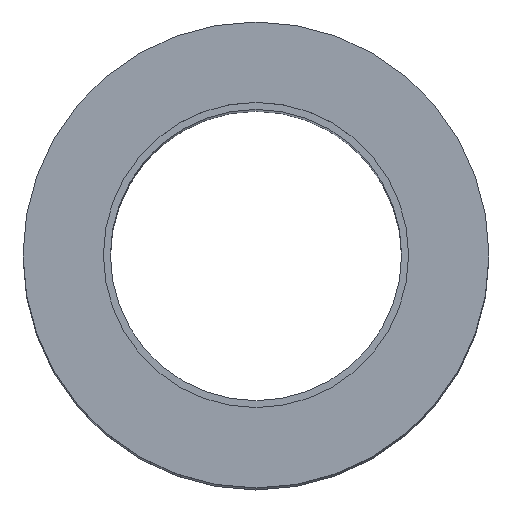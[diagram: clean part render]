
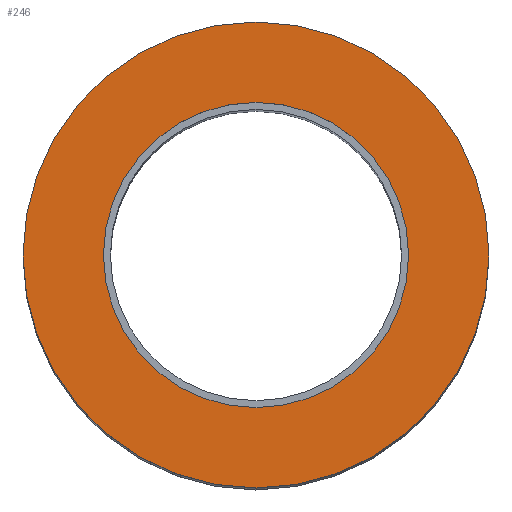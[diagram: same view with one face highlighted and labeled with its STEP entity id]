
A CAD part, top view. The second image highlights one B-rep face of the part: STEP entity #246.
In plain terms, the highlighted planar face has unit normal (0, 0, 1).
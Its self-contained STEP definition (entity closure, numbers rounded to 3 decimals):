
#3 = EDGE_CURVE ( 'NONE', #520, #337, #292, .T. ) ;
#23 = AXIS2_PLACEMENT_3D ( 'NONE', #208, #526, #306 ) ;
#25 = CARTESIAN_POINT ( 'NONE',  ( 0., 0., 0. ) ) ;
#27 = DIRECTION ( 'NONE',  ( 0., 0., 1. ) ) ;
#29 = AXIS2_PLACEMENT_3D ( 'NONE', #25, #493, #184 ) ;
#65 = PLANE ( 'NONE',  #23 ) ;
#79 = CARTESIAN_POINT ( 'NONE',  ( 20., 0., 0. ) ) ;
#82 = DIRECTION ( 'NONE',  ( 1., 0., 0. ) ) ;
#102 = AXIS2_PLACEMENT_3D ( 'NONE', #243, #558, #134 ) ;
#134 = DIRECTION ( 'NONE',  ( 1., 0., 0. ) ) ;
#163 = AXIS2_PLACEMENT_3D ( 'NONE', #336, #27, #82 ) ;
#174 = DIRECTION ( 'NONE',  ( 0., 0., 1. ) ) ;
#184 = DIRECTION ( 'NONE',  ( 1., 0., 0. ) ) ;
#208 = CARTESIAN_POINT ( 'NONE',  ( 0., 20., 0. ) ) ;
#229 = FACE_BOUND ( 'NONE', #407, .T. ) ;
#232 = CARTESIAN_POINT ( 'NONE',  ( -20., 0., 0. ) ) ;
#243 = CARTESIAN_POINT ( 'NONE',  ( 0., 0., 0. ) ) ;
#244 = CARTESIAN_POINT ( 'NONE',  ( 13.1, 0., 0. ) ) ;
#246 = ADVANCED_FACE ( 'NONE', ( #508, #229 ), #65, .T. ) ;
#250 = CIRCLE ( 'NONE', #609, 20. ) ;
#292 = CIRCLE ( 'NONE', #102, 13.1 ) ;
#306 = DIRECTION ( 'NONE',  ( 1., 0., 0. ) ) ;
#336 = CARTESIAN_POINT ( 'NONE',  ( 0., 0., 0. ) ) ;
#337 = VERTEX_POINT ( 'NONE', #486 ) ;
#387 = ORIENTED_EDGE ( 'NONE', *, *, #392, .T. ) ;
#392 = EDGE_CURVE ( 'NONE', #449, #426, #547, .T. ) ;
#398 = CIRCLE ( 'NONE', #29, 13.1 ) ;
#407 = EDGE_LOOP ( 'NONE', ( #504, #579 ) ) ;
#408 = EDGE_CURVE ( 'NONE', #337, #520, #398, .T. ) ;
#426 = VERTEX_POINT ( 'NONE', #232 ) ;
#428 = EDGE_CURVE ( 'NONE', #426, #449, #250, .T. ) ;
#449 = VERTEX_POINT ( 'NONE', #79 ) ;
#486 = CARTESIAN_POINT ( 'NONE',  ( -13.1, 0., 0. ) ) ;
#488 = CARTESIAN_POINT ( 'NONE',  ( 0., 0., 0. ) ) ;
#493 = DIRECTION ( 'NONE',  ( 0., 0., 1. ) ) ;
#504 = ORIENTED_EDGE ( 'NONE', *, *, #3, .F. ) ;
#508 = FACE_OUTER_BOUND ( 'NONE', #535, .T. ) ;
#520 = VERTEX_POINT ( 'NONE', #244 ) ;
#526 = DIRECTION ( 'NONE',  ( 0., 0., 1. ) ) ;
#535 = EDGE_LOOP ( 'NONE', ( #387, #562 ) ) ;
#542 = DIRECTION ( 'NONE',  ( 1., 0., 0. ) ) ;
#547 = CIRCLE ( 'NONE', #163, 20. ) ;
#558 = DIRECTION ( 'NONE',  ( 0., 0., 1. ) ) ;
#562 = ORIENTED_EDGE ( 'NONE', *, *, #428, .T. ) ;
#579 = ORIENTED_EDGE ( 'NONE', *, *, #408, .F. ) ;
#609 = AXIS2_PLACEMENT_3D ( 'NONE', #488, #174, #542 ) ;
